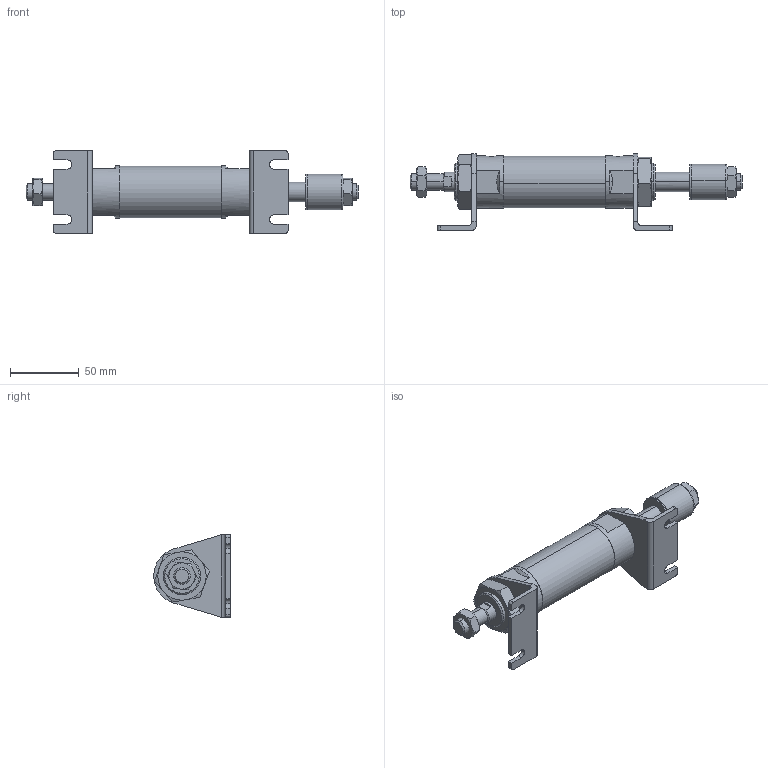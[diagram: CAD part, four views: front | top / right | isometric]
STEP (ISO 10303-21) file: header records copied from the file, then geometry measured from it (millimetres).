
FILE_DESCRIPTION (( 'STEP AP203' ), '1' );
FILE_NAME ('JGA7-32-25-L.STEP', '2016-04-20T01:57:24', ( '' ), ( '' ), 'SwSTEP 2.0', 'SolidWorks 2014', '' );
FILE_SCHEMA (( 'CONFIG_CONTROL_DESIGN' ));
Length unit declared in the file: millimetre
Products named in the file (8): M27x2-10mm; JGA7-32-25-L; JGA7-32A-25; 32-25; M12x1.25-7mm; JGA7-32-Turn; JGLH2-32B; J#2-32-L
Assembly tree (10 placements, depth 2):
  JGA7-32-25-L
    JGLH2-32B
    32-25
    JGA7-32A-25
    M12x1.25-7mm  x2
    J#2-32-L  x2
    M27x2-10mm  x2
    JGA7-32-Turn
Bounding box: 241 x 55.5 x 60 mm (x, y, z)
Volume: 199508.7 mm3; surface area: 55544.7 mm2
Topology: 10 solids, 10 shells, 225 faces, 518 edges, 318 vertices
Faces by surface type: plane 89, cylinder 64, torus 50, cone 22
Entity records: 5749 total; most frequent: CARTESIAN_POINT 1376, DIRECTION 757, ORIENTED_EDGE 690, EDGE_CURVE 345, AXIS2_PLACEMENT_3D 311, VERTEX_POINT 214, EDGE_LOOP 171, FACE_OUTER_BOUND 154
